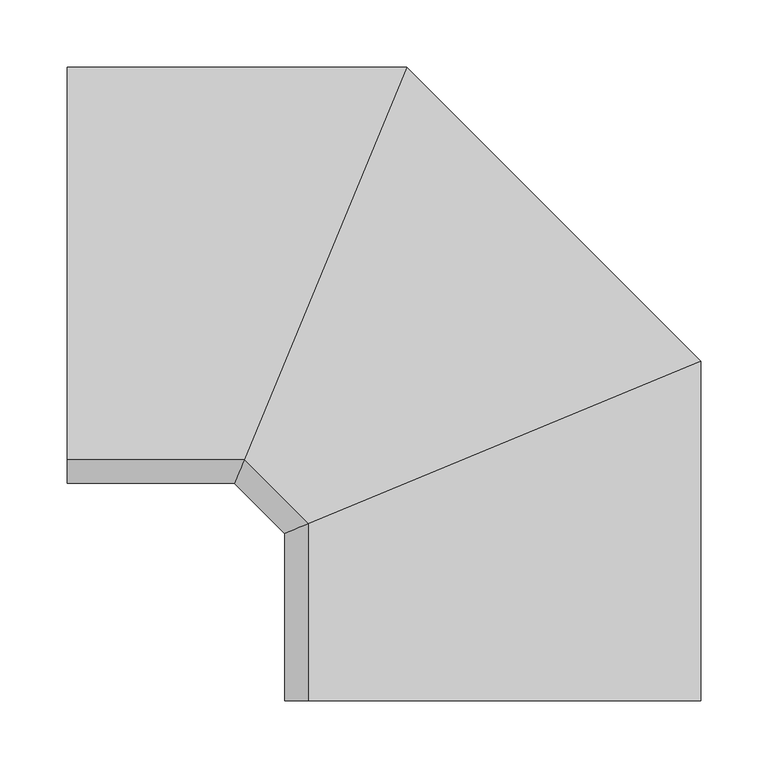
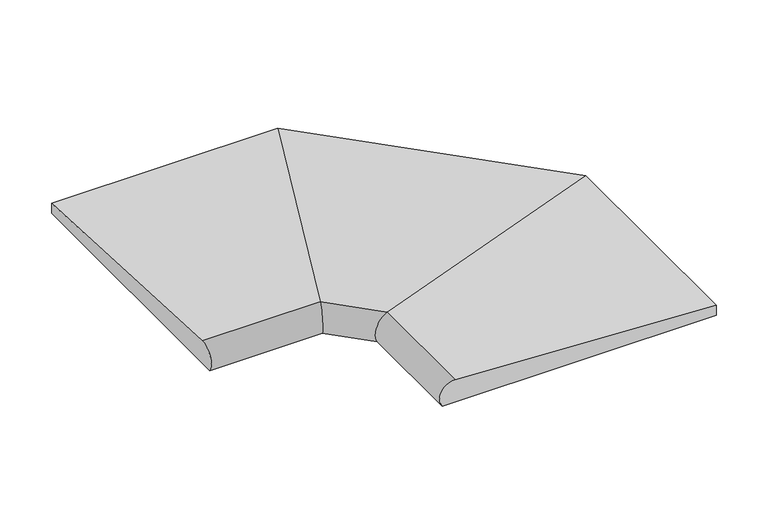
"""IFC4 building model written with IfcOpenShell, lengths in millimetres: proxy geometry, ROSA GRES_SI3 : Pieza SI3_Serena_Griggio_Anti-Slip."""

from ifc_helpers import new_model, si_unit, frame, origin, place, context, project, spatial, circle_curve, ellipse_curve, source, transform, mapped, element, save
from ifc_brep_helpers import plane_surface, cylinder_surface, advanced_brep


def generic_models_d8669382(model_context):
    return source(origin(), model_context, "Body", "AdvancedBrep", [
        advanced_brep(
        [(-164.5621653, 306.6389713, 0.0), (-164.5621653, 0.0, 0.0), (-164.5621653, 14.738484, 26.0545458), (-164.5621653, 306.6389713, 12.0), (306.6389713, -164.4390323, 0.0), (306.6389713, -164.4390323, 12.0), (14.738484, -164.4390323, 26.0545458), (0.0, -164.4390323, 0.0), (88.0083243, 306.6389713, 0.0), (306.6389713, 88.0083243, 0.0), (0.0, -39.0056963, 0.0), (-39.0056963, 0.0, 0.0), (-32.9008164, 14.738484, 26.0545458), (88.0083243, 306.6389713, 12.0), (14.738484, -32.9008164, 26.0545458), (306.6389713, 88.0083243, 12.0)],
        [
            (0, 1),
            (1, 2, circle_curve(frame((-164.5621653, 13.9724374, 9.2919904), z_axis=(-1.0, 0.0, 0.0), x_axis=(0.0, 1.0, 0.0)), 16.7800504)),
            (2, 3),
            (3, 0),
            (4, 5),
            (5, 6),
            (6, 7, circle_curve(frame((13.9724374, -164.4390323, 9.2919904), z_axis=(0.0, -1.0, 0.0), x_axis=(1.0, 0.0, 0.0)), 16.7800504)),
            (7, 4),
            (0, 8),
            (8, 9),
            (9, 4),
            (7, 10),
            (10, 11),
            (11, 1),
            (11, 12, ellipse_curve(frame((-33.2181232, 13.9724374, 9.2919904), z_axis=(-0.9238795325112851, 0.3826834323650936, 0.0), x_axis=(-0.38268343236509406, -0.9238795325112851, 0.0)), 18.1625957, 16.7800504)),
            (12, 2),
            (12, 13),
            (13, 3),
            (13, 8),
            (14, 10, ellipse_curve(frame((13.9724374, -33.2181232, 9.2919904), z_axis=(0.382683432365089, -0.9238795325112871, 0.0), x_axis=(0.923879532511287, 0.38268343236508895, 0.0)), 18.1625957, 16.7800504)),
            (6, 14),
            (15, 14),
            (5, 15),
            (9, 15),
            (14, 12),
            (15, 13),
        ],
        [
            plane_surface(frame((-164.5621653, 0.0, 0.0), z_axis=(-1.0, 0.0, 0.0), x_axis=(0.0, 0.0, 1.0))),
            plane_surface(frame((0.0, -164.4390323, 0.0), z_axis=(0.0, -1.0, 0.0), x_axis=(0.0, 0.0, 1.0))),
            plane_surface(frame((-164.5621653, 306.6389713, 0.0), z_axis=(0.0, 0.0, -1.0), x_axis=(1.0, 0.0, 0.0))),
            cylinder_surface(frame((-164.5621653, 13.9724374, 9.2919904), z_axis=(-1.0, 0.0, 0.0), x_axis=(0.0, 1.0, 0.0)), 16.7800504),
            plane_surface(frame((-164.5621653, 14.738484, 26.0545458), z_axis=(0.0, 0.04809270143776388, 0.9988428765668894), x_axis=(1.0, 0.0, 0.0))),
            plane_surface(frame((-164.5621653, 306.6389713, 12.0), z_axis=(0.0, 1.0, 0.0), x_axis=(1.0, 0.0, 0.0))),
            cylinder_surface(frame((13.9724374, -39.0056963, 9.2919904), z_axis=(0.0, 1.0, 0.0), x_axis=(1.0, 0.0, 0.0)), 16.7800504),
            plane_surface(frame((14.738484, -32.9008164, 26.0545458), z_axis=(0.048092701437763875, 0.0, 0.9988428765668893), x_axis=(0.0, -1.0, 0.0))),
            plane_surface(frame((306.6389713, 88.0083243, 12.0), z_axis=(1.0, 0.0, 0.0), x_axis=(0.0, -1.0, 0.0))),
            cylinder_surface(frame((-29.1256911, 9.8800053, 9.2919904), z_axis=(-0.7071067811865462, 0.7071067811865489, 0.0), x_axis=(0.7071067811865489, 0.7071067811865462, 0.0)), 16.7800504),
            plane_surface(frame((-32.9008164, 14.738484, 26.0545458), z_axis=(0.03400667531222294, 0.03400667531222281, 0.9988428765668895), x_axis=(0.7071067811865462, -0.707106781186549, 0.0))),
            plane_surface(frame((88.0083243, 306.6389713, 12.0), z_axis=(0.7071067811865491, 0.707106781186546, 0.0), x_axis=(0.707106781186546, -0.7071067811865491, 0.0))),
        ],
        [
            (0, [[1, 2, 3, 4]]),
            (1, [[5, 6, 7, 8]]),
            (2, [[-1, 9, 10, 11, -8, 12, 13, 14]]),
            (3, [[-2, -14, 15, 16]]),
            (4, [[-3, -16, 17, 18]]),
            (5, [[-4, -18, 19, -9]]),
            (6, [[20, -12, -7, 21]]),
            (7, [[22, -21, -6, 23]]),
            (8, [[24, -23, -5, -11]]),
            (9, [[-15, -13, -20, 25]]),
            (10, [[-17, -25, -22, 26]]),
            (11, [[-19, -26, -24, -10]]),
        ],
    ),
    ])


if __name__ == "__main__":
    model = new_model("IFC4")
    model_context = context("Model", 3, world=origin())
    ifc_project = project(units=[si_unit("LENGTHUNIT", "METRE", prefix="MILLI")], contexts=[model_context])
    site = spatial("IfcSite", under=ifc_project)
    building = spatial("IfcBuilding", under=site)
    placement = place(None, origin())
    generic_models_shape = generic_models_d8669382(model_context)
    element("IfcBuildingElementProxy", 1, Name="ROSA GRES_SI3 : Pieza SI3_Serena_Griggio_Anti-Slip", ObjectType="ROSA GRES_SI3 : Pieza SI3_Serena_Griggio_Anti-Slip", at=placement, inside=building, context=model_context, shape_type="MappedRepresentation", body=[
        mapped(generic_models_shape, transform((0.0, 0.0, 0.0), x_axis=(1.0, 0.0, 0.0), y_axis=(0.0, 1.0, 0.0), z_axis=(0.0, 0.0, 1.0))),
    ])
    save(model, "model.ifc")
